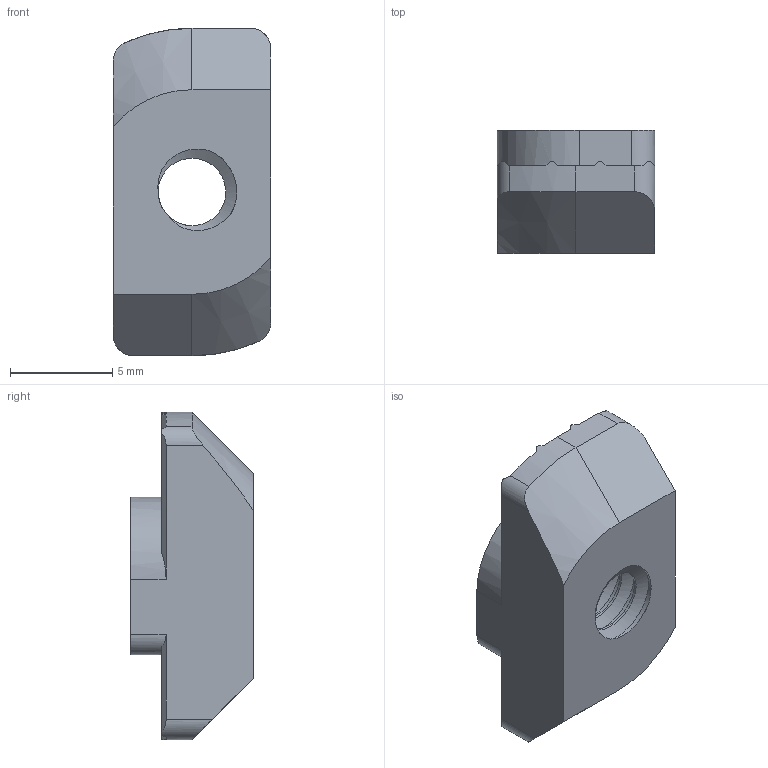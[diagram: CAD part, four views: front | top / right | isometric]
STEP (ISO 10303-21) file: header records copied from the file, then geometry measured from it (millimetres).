
FILE_DESCRIPTION (( 'STEP AP203' ), '1' );
FILE_NAME ('341010_Hammermutter Nut 8 M4.step', '2022-03-14T11:02:32', ( '' ), ( '' ), 'SwSTEP 2.0', 'SolidWorks 2021', '' );
FILE_SCHEMA (( 'CONFIG_CONTROL_DESIGN' ));
Length unit declared in the file: millimetre
Products named in the file (1): 341010_Hammermutter Nut 8 M4
Bounding box: 7.7 x 6 x 16 mm (x, y, z)
Volume: 462.8 mm3; surface area: 534.2 mm2
Topology: 1 solids, 1 shells, 68 faces, 196 edges, 130 vertices
Faces by surface type: plane 32, cylinder 31, bspline 3, cone 2
Entity records: 3529 total; most frequent: CARTESIAN_POINT 1849, ORIENTED_EDGE 392, DIRECTION 280, EDGE_CURVE 196, VERTEX_POINT 130, AXIS2_PLACEMENT_3D 94, LINE 92, VECTOR 92
